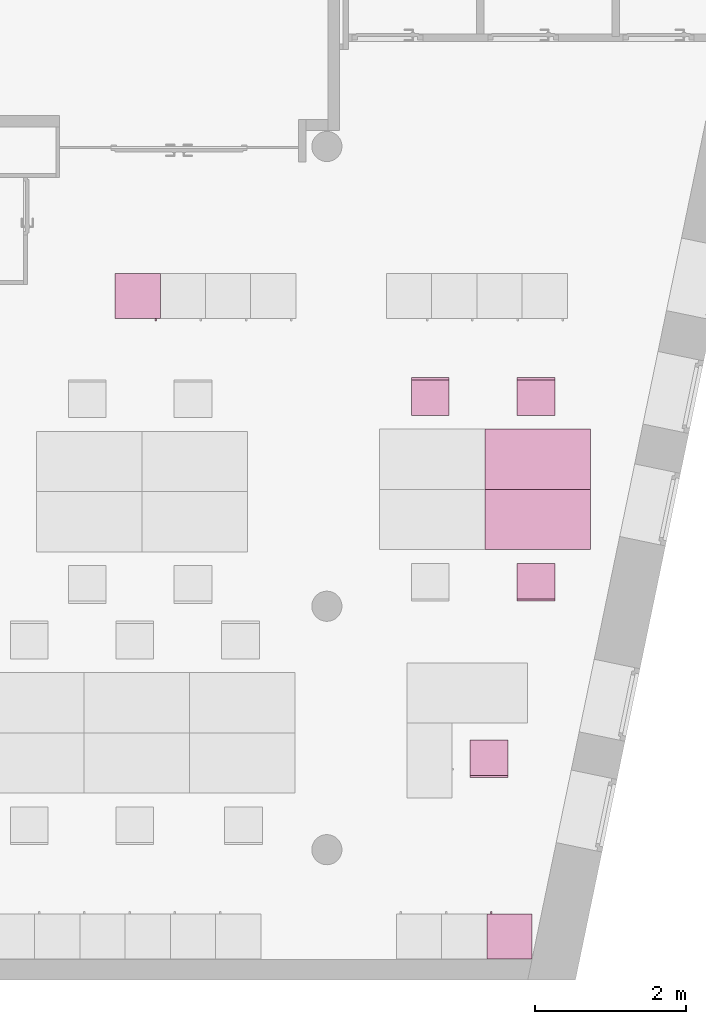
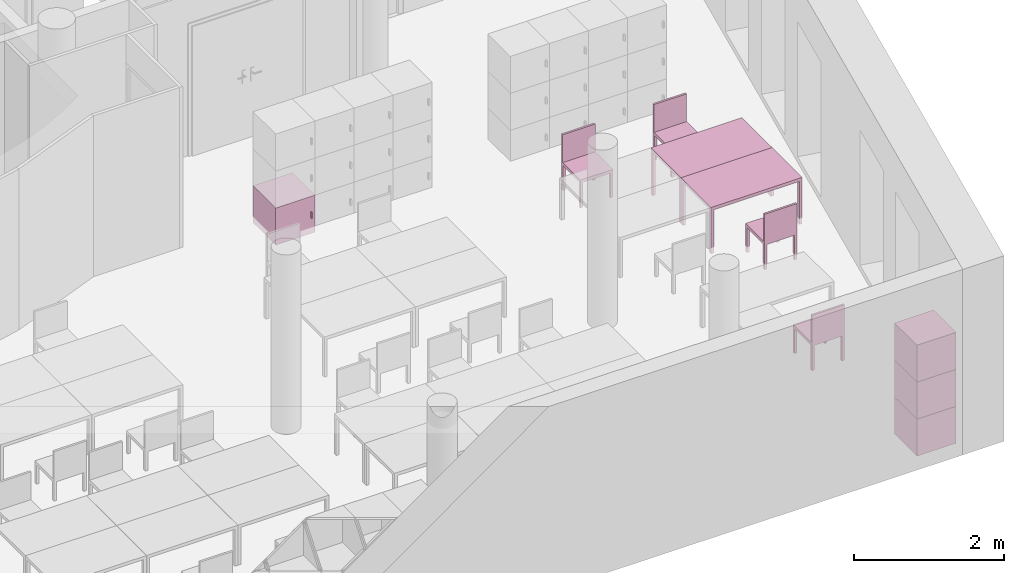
"""IFC4 building model written with IfcOpenShell, lengths in metres."""

from ifc_helpers import new_model, entity, si_unit, converted_unit, derived_unit, frame, origin, place, context, subcontext, project, spatial, faceted_brep, element, save


model = new_model("IFC4")

# Units and contexts
model_context = context("Model", 3, precision=1e-05, world=origin())
body_context = subcontext(model_context, "Body", "Model", "MODEL_VIEW")
ifc_project = project(units=[si_unit("LENGTHUNIT", "METRE"), si_unit("AREAUNIT", "SQUARE_METRE"), si_unit("VOLUMEUNIT", "CUBIC_METRE"), si_unit("MASSUNIT", "GRAM", prefix="KILO"), converted_unit("PLANEANGLEUNIT", "DEGREE", entity("IfcPlaneAngleMeasure", 0.0174532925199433), si_unit("PLANEANGLEUNIT", "RADIAN"), dimensions=[0, 0, 0, 0, 0, 0, 0]), derived_unit("THERMALTRANSMITTANCEUNIT", [(si_unit("POWERUNIT", "WATT"), 1), (si_unit("THERMODYNAMICTEMPERATUREUNIT", "KELVIN"), -1), (si_unit("LENGTHUNIT", "METRE"), -2)]), derived_unit("VOLUMETRICFLOWRATEUNIT", [(si_unit("LENGTHUNIT", "METRE"), 3), (converted_unit("TIMEUNIT", "hour", entity("IfcTimeMeasure", 3600.0), si_unit("TIMEUNIT", "SECOND"), dimensions=[0, 0, 1, 0, 0, 0, 0]), -1), (si_unit("LENGTHUNIT", "METRE"), -1)])], contexts=[model_context])

# Building, storeys
building_placement = place(None, origin())
building = spatial("IfcBuilding", under=ifc_project, at=building_placement, Name="HABITATGE PLURIFAMILIAR", CompositionType="ELEMENT")
storey_1_placement = place(building_placement, frame((0.0, 0.0, 15.28)))
storey_1 = spatial("IfcBuildingStorey", under=building, at=storey_1_placement, Name="PLANTA QUARTA", CompositionType="ELEMENT", Elevation=15.28)
storey_2_placement = place(storey_1_placement, frame((0.0, 0.0, 12.27)))
storey_2 = spatial("IfcBuildingStorey", under=storey_1, at=storey_2_placement, Name="NOU", CompositionType="PARTIAL")

# Furniture
furniture_1_placement = place(storey_2_placement, frame((423.091648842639, 18.5496367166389, -12.3699999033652)))
element("IfcFurniture", 1, at=furniture_1_placement, inside=storey_2, Name="Taula 140X80_P4", context=body_context, shape_type="Brep", body=[
    faceted_brep([(0.04375, 0.750069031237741, 0.0), (0.04375, 0.800069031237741, 0.0), (0.0, 0.800069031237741, 0.0), (0.0, 0.750069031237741, 0.0), (0.04375, 0.800069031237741, 0.7), (0.04375, 0.750069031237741, 0.7), (0.0, 0.750069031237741, 0.7), (0.0, 0.800069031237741, 0.7)], [[[0, 1, 2, 3]], [[4, 5, 6, 7]], [[1, 0, 5, 4]], [[2, 1, 4, 7]], [[3, 2, 7, 6]], [[0, 3, 6, 5]]], orient=[[False], [False], [False], [False], [False], [False]]),
    faceted_brep([(0.04375, 0.0, 0.0), (0.04375, 0.05, 0.0), (0.0, 0.05, 0.0), (0.0, 0.0, 0.0), (0.04375, 0.05, 0.7), (0.04375, 0.0, 0.7), (0.0, 0.0, 0.7), (0.0, 0.05, 0.7)], [[[0, 1, 2, 3]], [[4, 5, 6, 7]], [[1, 0, 5, 4]], [[2, 1, 4, 7]], [[3, 2, 7, 6]], [[0, 3, 6, 5]]], orient=[[False], [False], [False], [False], [False], [False]]),
    faceted_brep([(1.39732768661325, 0.0, 0.7), (1.39732768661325, 0.800069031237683, 0.7), (0.0, 0.800069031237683, 0.7), (0.0, 0.0, 0.7), (1.39732768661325, 0.800069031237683, 0.75), (1.39732768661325, 0.0, 0.75), (0.0, 0.0, 0.75), (0.0, 0.800069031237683, 0.75)], [[[0, 1, 2, 3]], [[4, 5, 6, 7]], [[1, 0, 5, 4]], [[2, 1, 4, 7]], [[3, 2, 7, 6]], [[0, 3, 6, 5]]], orient=[[False], [False], [False], [False], [False], [False]]),
    faceted_brep([(1.39732768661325, 0.750069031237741, 0.0), (1.39732768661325, 0.800069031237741, 0.0), (1.35357768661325, 0.800069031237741, 0.0), (1.35357768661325, 0.750069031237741, 0.0), (1.39732768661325, 0.800069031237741, 0.7), (1.39732768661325, 0.750069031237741, 0.7), (1.35357768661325, 0.750069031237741, 0.7), (1.35357768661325, 0.800069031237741, 0.7)], [[[0, 1, 2, 3]], [[4, 5, 6, 7]], [[1, 0, 5, 4]], [[2, 1, 4, 7]], [[3, 2, 7, 6]], [[0, 3, 6, 5]]], orient=[[False], [False], [False], [False], [False], [False]]),
    faceted_brep([(1.39732768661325, 0.0, 0.0), (1.39732768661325, 0.05, 0.0), (1.35357768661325, 0.05, 0.0), (1.35357768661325, 0.0, 0.0), (1.39732768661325, 0.05, 0.7), (1.39732768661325, 0.0, 0.7), (1.35357768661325, 0.0, 0.7), (1.35357768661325, 0.05, 0.7)], [[[0, 1, 2, 3]], [[4, 5, 6, 7]], [[1, 0, 5, 4]], [[2, 1, 4, 7]], [[3, 2, 7, 6]], [[0, 3, 6, 5]]], orient=[[False], [False], [False], [False], [False], [False]]),
])
furniture_2_placement = place(storey_2_placement, frame((423.091648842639, 19.3497057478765, -12.3699999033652)))
element("IfcFurniture", 2, at=furniture_2_placement, inside=storey_2, Name="Taula 140X80_P4", context=body_context, shape_type="Brep", body=[
    faceted_brep([(0.04375, 0.05, 0.0), (0.0, 0.05, 0.0), (0.0, 0.0, 0.0), (0.04375, 0.0, 0.0), (0.04375, 0.0, 0.7), (0.0, 0.0, 0.7), (0.0, 0.05, 0.7), (0.04375, 0.05, 0.7)], [[[0, 1, 2, 3]], [[4, 5, 6, 7]], [[3, 4, 7, 0]], [[2, 5, 4, 3]], [[1, 6, 5, 2]], [[0, 7, 6, 1]]], orient=[[False], [False], [False], [False], [False], [False]]),
    faceted_brep([(0.04375, 0.800069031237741, 0.0), (0.0, 0.800069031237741, 0.0), (0.0, 0.750069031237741, 0.0), (0.04375, 0.750069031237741, 0.0), (0.04375, 0.750069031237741, 0.7), (0.0, 0.750069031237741, 0.7), (0.0, 0.800069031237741, 0.7), (0.04375, 0.800069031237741, 0.7)], [[[0, 1, 2, 3]], [[4, 5, 6, 7]], [[3, 4, 7, 0]], [[2, 5, 4, 3]], [[1, 6, 5, 2]], [[0, 7, 6, 1]]], orient=[[False], [False], [False], [False], [False], [False]]),
    faceted_brep([(1.39732768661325, 0.800069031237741, 0.7), (0.0, 0.800069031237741, 0.7), (0.0, 0.0, 0.7), (1.39732768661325, 0.0, 0.7), (1.39732768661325, 0.0, 0.75), (0.0, 0.0, 0.75), (0.0, 0.800069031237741, 0.75), (1.39732768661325, 0.800069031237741, 0.75)], [[[0, 1, 2, 3]], [[4, 5, 6, 7]], [[3, 4, 7, 0]], [[2, 5, 4, 3]], [[1, 6, 5, 2]], [[0, 7, 6, 1]]], orient=[[False], [False], [False], [False], [False], [False]]),
    faceted_brep([(1.39732768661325, 0.05, 0.0), (1.35357768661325, 0.05, 0.0), (1.35357768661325, 0.0, 0.0), (1.39732768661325, 0.0, 0.0), (1.39732768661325, 0.0, 0.7), (1.35357768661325, 0.0, 0.7), (1.35357768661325, 0.05, 0.7), (1.39732768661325, 0.05, 0.7)], [[[0, 1, 2, 3]], [[4, 5, 6, 7]], [[3, 4, 7, 0]], [[2, 5, 4, 3]], [[1, 6, 5, 2]], [[0, 7, 6, 1]]], orient=[[False], [False], [False], [False], [False], [False]]),
    faceted_brep([(1.39732768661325, 0.800069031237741, 0.0), (1.35357768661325, 0.800069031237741, 0.0), (1.35357768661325, 0.750069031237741, 0.0), (1.39732768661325, 0.750069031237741, 0.0), (1.39732768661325, 0.750069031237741, 0.7), (1.35357768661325, 0.750069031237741, 0.7), (1.35357768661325, 0.800069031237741, 0.7), (1.39732768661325, 0.800069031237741, 0.7)], [[[0, 1, 2, 3]], [[4, 5, 6, 7]], [[3, 4, 7, 0]], [[2, 5, 4, 3]], [[1, 6, 5, 2]], [[0, 7, 6, 1]]], orient=[[False], [False], [False], [False], [False], [False]]),
])
furniture_3_placement = place(storey_2_placement, frame((423.11527037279, 13.1194598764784, -12.37)))
element("IfcFurniture", 3, at=furniture_3_placement, inside=storey_2, Name="Armai 60x60x60_P4", context=body_context, shape_type="Brep", body=[
    faceted_brep([(0.0, 0.6, 0.02), (0.0, 0.6, 0.0), (0.6, 0.6, 0.0), (0.6, 0.6, 0.02), (0.6, 0.0, 0.0), (0.6, 0.0, 0.02), (0.0, 0.0, 0.0), (0.0, 0.0, 0.02)], [[[0, 1, 2, 3]], [[3, 2, 4, 5]], [[5, 4, 6, 7]], [[7, 6, 1, 0]], [[0, 3, 5, 7]], [[1, 6, 4, 2]]], orient=[[False], [False], [False], [False], [False], [False]]),
    faceted_brep([(0.580000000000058, 0.0, 0.58), (0.580000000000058, 0.0200000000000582, 0.58), (0.580000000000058, 0.0200000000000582, 0.02), (0.580000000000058, 0.0, 0.02), (0.0200000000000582, 0.0200000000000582, 0.02), (0.0200000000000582, 0.0, 0.02), (0.0200000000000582, 0.0200000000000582, 0.58), (0.0200000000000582, 0.0, 0.58)], [[[0, 1, 2, 3]], [[3, 2, 4, 5]], [[5, 4, 6, 7]], [[7, 6, 1, 0]], [[0, 3, 5, 7]], [[1, 6, 4, 2]]], orient=[[False], [False], [False], [False], [False], [False]]),
    faceted_brep([(0.0200000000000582, 0.6, 0.58), (0.0, 0.6, 0.58), (0.0, 0.6, 0.02), (0.0200000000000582, 0.6, 0.02), (0.0, 0.0, 0.02), (0.0200000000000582, 0.0, 0.02), (0.0, 0.0, 0.58), (0.0200000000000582, 0.0, 0.58)], [[[0, 1, 2, 3]], [[3, 2, 4, 5]], [[5, 4, 6, 7]], [[7, 6, 1, 0]], [[0, 3, 5, 7]], [[1, 6, 4, 2]]], orient=[[False], [False], [False], [False], [False], [False]]),
    faceted_brep([(0.0, 0.58, 0.58), (0.0, 0.6, 0.58), (0.0, 0.6, 0.02), (0.0, 0.58, 0.02), (0.02, 0.6, 0.02), (0.02, 0.58, 0.02), (0.02, 0.6, 0.58), (0.02, 0.58, 0.58)], [[[0, 1, 2, 3]], [[3, 2, 4, 5]], [[5, 4, 6, 7]], [[7, 6, 1, 0]], [[0, 3, 5, 7]], [[1, 6, 4, 2]]], orient=[[False], [False], [False], [False], [False], [False]]),
    faceted_brep([(0.6, 0.6, 0.58), (0.58, 0.6, 0.58), (0.58, 0.6, 0.02), (0.6, 0.6, 0.02), (0.58, 0.0, 0.02), (0.6, 0.0, 0.02), (0.58, 0.0, 0.58), (0.6, 0.0, 0.58)], [[[0, 1, 2, 3]], [[3, 2, 4, 5]], [[5, 4, 6, 7]], [[7, 6, 1, 0]], [[0, 3, 5, 7]], [[1, 6, 4, 2]]], orient=[[False], [False], [False], [False], [False], [False]]),
    faceted_brep([(0.0, 0.600000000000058, 0.6), (0.0, 0.600000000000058, 0.58), (0.600000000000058, 0.600000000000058, 0.58), (0.600000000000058, 0.600000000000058, 0.6), (0.600000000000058, 0.0, 0.58), (0.600000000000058, 0.0, 0.6), (0.0, 0.0, 0.58), (0.0, 0.0, 0.6)], [[[0, 1, 2, 3]], [[3, 2, 4, 5]], [[5, 4, 6, 7]], [[7, 6, 1, 0]], [[0, 3, 5, 7]], [[1, 6, 4, 2]]], orient=[[False], [False], [False], [False], [False], [False]]),
    faceted_brep([(0.580000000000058, 0.580000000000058, 0.58), (0.580000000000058, 0.600000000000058, 0.58), (0.580000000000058, 0.600000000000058, 0.02), (0.580000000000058, 0.580000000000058, 0.02), (0.02, 0.600000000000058, 0.02), (0.02, 0.580000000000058, 0.02), (0.02, 0.600000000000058, 0.58), (0.02, 0.580000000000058, 0.58)], [[[0, 1, 2, 3]], [[3, 2, 4, 5]], [[5, 4, 6, 7]], [[7, 6, 1, 0]], [[0, 3, 5, 7]], [[1, 6, 4, 2]]], orient=[[False], [False], [False], [False], [False], [False]]),
    faceted_brep([(0.0700000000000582, 0.600000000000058, 0.358064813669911), (0.0700000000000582, 0.630000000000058, 0.358064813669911), (0.0700000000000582, 0.630000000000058, 0.258064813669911), (0.0700000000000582, 0.600000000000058, 0.258064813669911), (0.0500000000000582, 0.630000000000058, 0.258064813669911), (0.0500000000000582, 0.600000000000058, 0.258064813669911), (0.0500000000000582, 0.630000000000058, 0.358064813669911), (0.0500000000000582, 0.600000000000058, 0.358064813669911)], [[[0, 1, 2, 3]], [[3, 2, 4, 5]], [[5, 4, 6, 7]], [[7, 6, 1, 0]], [[0, 3, 5, 7]], [[1, 6, 4, 2]]], orient=[[False], [False], [False], [False], [False], [False]]),
])
furniture_4_placement = place(storey_2_placement, frame((423.11527037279, 13.1194598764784, -11.77)))
element("IfcFurniture", 4, at=furniture_4_placement, inside=storey_2, Name="Armai 60x60x60_P4", context=body_context, shape_type="Brep", body=[
    faceted_brep([(0.0, 0.6, 0.02), (0.0, 0.6, 0.0), (0.6, 0.6, 0.0), (0.6, 0.6, 0.02), (0.6, 0.0, 0.0), (0.6, 0.0, 0.02), (0.0, 0.0, 0.0), (0.0, 0.0, 0.02)], [[[0, 1, 2, 3]], [[3, 2, 4, 5]], [[5, 4, 6, 7]], [[7, 6, 1, 0]], [[0, 3, 5, 7]], [[1, 6, 4, 2]]], orient=[[False], [False], [False], [False], [False], [False]]),
    faceted_brep([(0.580000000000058, 0.0, 0.58), (0.580000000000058, 0.0200000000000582, 0.58), (0.580000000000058, 0.0200000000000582, 0.02), (0.580000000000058, 0.0, 0.02), (0.0200000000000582, 0.0200000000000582, 0.02), (0.0200000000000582, 0.0, 0.02), (0.0200000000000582, 0.0200000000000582, 0.58), (0.0200000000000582, 0.0, 0.58)], [[[0, 1, 2, 3]], [[3, 2, 4, 5]], [[5, 4, 6, 7]], [[7, 6, 1, 0]], [[0, 3, 5, 7]], [[1, 6, 4, 2]]], orient=[[False], [False], [False], [False], [False], [False]]),
    faceted_brep([(0.0200000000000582, 0.6, 0.58), (0.0, 0.6, 0.58), (0.0, 0.6, 0.02), (0.0200000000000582, 0.6, 0.02), (0.0, 0.0, 0.02), (0.0200000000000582, 0.0, 0.02), (0.0, 0.0, 0.58), (0.0200000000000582, 0.0, 0.58)], [[[0, 1, 2, 3]], [[3, 2, 4, 5]], [[5, 4, 6, 7]], [[7, 6, 1, 0]], [[0, 3, 5, 7]], [[1, 6, 4, 2]]], orient=[[False], [False], [False], [False], [False], [False]]),
    faceted_brep([(0.0, 0.58, 0.58), (0.0, 0.6, 0.58), (0.0, 0.6, 0.02), (0.0, 0.58, 0.02), (0.02, 0.6, 0.02), (0.02, 0.58, 0.02), (0.02, 0.6, 0.58), (0.02, 0.58, 0.58)], [[[0, 1, 2, 3]], [[3, 2, 4, 5]], [[5, 4, 6, 7]], [[7, 6, 1, 0]], [[0, 3, 5, 7]], [[1, 6, 4, 2]]], orient=[[False], [False], [False], [False], [False], [False]]),
    faceted_brep([(0.6, 0.6, 0.58), (0.58, 0.6, 0.58), (0.58, 0.6, 0.02), (0.6, 0.6, 0.02), (0.58, 0.0, 0.02), (0.6, 0.0, 0.02), (0.58, 0.0, 0.58), (0.6, 0.0, 0.58)], [[[0, 1, 2, 3]], [[3, 2, 4, 5]], [[5, 4, 6, 7]], [[7, 6, 1, 0]], [[0, 3, 5, 7]], [[1, 6, 4, 2]]], orient=[[False], [False], [False], [False], [False], [False]]),
    faceted_brep([(0.0, 0.600000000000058, 0.6), (0.0, 0.600000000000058, 0.58), (0.600000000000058, 0.600000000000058, 0.58), (0.600000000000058, 0.600000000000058, 0.6), (0.600000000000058, 0.0, 0.58), (0.600000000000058, 0.0, 0.6), (0.0, 0.0, 0.58), (0.0, 0.0, 0.6)], [[[0, 1, 2, 3]], [[3, 2, 4, 5]], [[5, 4, 6, 7]], [[7, 6, 1, 0]], [[0, 3, 5, 7]], [[1, 6, 4, 2]]], orient=[[False], [False], [False], [False], [False], [False]]),
    faceted_brep([(0.580000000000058, 0.580000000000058, 0.58), (0.580000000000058, 0.600000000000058, 0.58), (0.580000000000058, 0.600000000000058, 0.02), (0.580000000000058, 0.580000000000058, 0.02), (0.02, 0.600000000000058, 0.02), (0.02, 0.580000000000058, 0.02), (0.02, 0.600000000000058, 0.58), (0.02, 0.580000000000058, 0.58)], [[[0, 1, 2, 3]], [[3, 2, 4, 5]], [[5, 4, 6, 7]], [[7, 6, 1, 0]], [[0, 3, 5, 7]], [[1, 6, 4, 2]]], orient=[[False], [False], [False], [False], [False], [False]]),
    faceted_brep([(0.0700000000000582, 0.600000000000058, 0.358064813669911), (0.0700000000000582, 0.630000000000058, 0.358064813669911), (0.0700000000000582, 0.630000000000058, 0.258064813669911), (0.0700000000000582, 0.600000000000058, 0.258064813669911), (0.0500000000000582, 0.630000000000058, 0.258064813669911), (0.0500000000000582, 0.600000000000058, 0.258064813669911), (0.0500000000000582, 0.630000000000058, 0.358064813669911), (0.0500000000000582, 0.600000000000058, 0.358064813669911)], [[[0, 1, 2, 3]], [[3, 2, 4, 5]], [[5, 4, 6, 7]], [[7, 6, 1, 0]], [[0, 3, 5, 7]], [[1, 6, 4, 2]]], orient=[[False], [False], [False], [False], [False], [False]]),
])
furniture_5_placement = place(storey_2_placement, frame((423.11527037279, 13.1194598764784, -11.17)))
element("IfcFurniture", 5, at=furniture_5_placement, inside=storey_2, Name="Armai 60x60x60_P4", context=body_context, shape_type="Brep", body=[
    faceted_brep([(0.0, 0.6, 0.02), (0.0, 0.6, 0.0), (0.6, 0.6, 0.0), (0.6, 0.6, 0.02), (0.6, 0.0, 0.0), (0.6, 0.0, 0.02), (0.0, 0.0, 0.0), (0.0, 0.0, 0.02)], [[[0, 1, 2, 3]], [[3, 2, 4, 5]], [[5, 4, 6, 7]], [[7, 6, 1, 0]], [[0, 3, 5, 7]], [[1, 6, 4, 2]]], orient=[[False], [False], [False], [False], [False], [False]]),
    faceted_brep([(0.580000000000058, 0.0, 0.58), (0.580000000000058, 0.0200000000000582, 0.58), (0.580000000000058, 0.0200000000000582, 0.02), (0.580000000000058, 0.0, 0.02), (0.0200000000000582, 0.0200000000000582, 0.02), (0.0200000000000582, 0.0, 0.02), (0.0200000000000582, 0.0200000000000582, 0.58), (0.0200000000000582, 0.0, 0.58)], [[[0, 1, 2, 3]], [[3, 2, 4, 5]], [[5, 4, 6, 7]], [[7, 6, 1, 0]], [[0, 3, 5, 7]], [[1, 6, 4, 2]]], orient=[[False], [False], [False], [False], [False], [False]]),
    faceted_brep([(0.0200000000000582, 0.6, 0.58), (0.0, 0.6, 0.58), (0.0, 0.6, 0.02), (0.0200000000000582, 0.6, 0.02), (0.0, 0.0, 0.02), (0.0200000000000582, 0.0, 0.02), (0.0, 0.0, 0.58), (0.0200000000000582, 0.0, 0.58)], [[[0, 1, 2, 3]], [[3, 2, 4, 5]], [[5, 4, 6, 7]], [[7, 6, 1, 0]], [[0, 3, 5, 7]], [[1, 6, 4, 2]]], orient=[[False], [False], [False], [False], [False], [False]]),
    faceted_brep([(0.0, 0.58, 0.58), (0.0, 0.6, 0.58), (0.0, 0.6, 0.02), (0.0, 0.58, 0.02), (0.02, 0.6, 0.02), (0.02, 0.58, 0.02), (0.02, 0.6, 0.58), (0.02, 0.58, 0.58)], [[[0, 1, 2, 3]], [[3, 2, 4, 5]], [[5, 4, 6, 7]], [[7, 6, 1, 0]], [[0, 3, 5, 7]], [[1, 6, 4, 2]]], orient=[[False], [False], [False], [False], [False], [False]]),
    faceted_brep([(0.6, 0.6, 0.58), (0.58, 0.6, 0.58), (0.58, 0.6, 0.02), (0.6, 0.6, 0.02), (0.58, 0.0, 0.02), (0.6, 0.0, 0.02), (0.58, 0.0, 0.58), (0.6, 0.0, 0.58)], [[[0, 1, 2, 3]], [[3, 2, 4, 5]], [[5, 4, 6, 7]], [[7, 6, 1, 0]], [[0, 3, 5, 7]], [[1, 6, 4, 2]]], orient=[[False], [False], [False], [False], [False], [False]]),
    faceted_brep([(0.0, 0.600000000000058, 0.6), (0.0, 0.600000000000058, 0.58), (0.600000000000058, 0.600000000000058, 0.58), (0.600000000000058, 0.600000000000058, 0.6), (0.600000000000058, 0.0, 0.58), (0.600000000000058, 0.0, 0.6), (0.0, 0.0, 0.58), (0.0, 0.0, 0.6)], [[[0, 1, 2, 3]], [[3, 2, 4, 5]], [[5, 4, 6, 7]], [[7, 6, 1, 0]], [[0, 3, 5, 7]], [[1, 6, 4, 2]]], orient=[[False], [False], [False], [False], [False], [False]]),
    faceted_brep([(0.580000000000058, 0.580000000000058, 0.58), (0.580000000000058, 0.600000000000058, 0.58), (0.580000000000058, 0.600000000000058, 0.02), (0.580000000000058, 0.580000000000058, 0.02), (0.02, 0.600000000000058, 0.02), (0.02, 0.580000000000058, 0.02), (0.02, 0.600000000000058, 0.58), (0.02, 0.580000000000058, 0.58)], [[[0, 1, 2, 3]], [[3, 2, 4, 5]], [[5, 4, 6, 7]], [[7, 6, 1, 0]], [[0, 3, 5, 7]], [[1, 6, 4, 2]]], orient=[[False], [False], [False], [False], [False], [False]]),
    faceted_brep([(0.0700000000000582, 0.600000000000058, 0.358064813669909), (0.0700000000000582, 0.630000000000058, 0.358064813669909), (0.0700000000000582, 0.630000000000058, 0.258064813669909), (0.0700000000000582, 0.600000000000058, 0.258064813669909), (0.0500000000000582, 0.630000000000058, 0.258064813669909), (0.0500000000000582, 0.600000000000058, 0.258064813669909), (0.0500000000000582, 0.630000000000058, 0.358064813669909), (0.0500000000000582, 0.600000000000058, 0.358064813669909)], [[[0, 1, 2, 3]], [[3, 2, 4, 5]], [[5, 4, 6, 7]], [[7, 6, 1, 0]], [[0, 3, 5, 7]], [[1, 6, 4, 2]]], orient=[[False], [False], [False], [False], [False], [False]]),
])
furniture_6_placement = place(storey_2_placement, frame((418.182081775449, 21.5873137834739, -12.37)))
element("IfcFurniture", 6, at=furniture_6_placement, inside=storey_2, Name="Armai 60x60x60_P4", context=body_context, shape_type="Brep", body=[
    faceted_brep([(0.600000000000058, 0.0300000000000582, 0.02), (0.600000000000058, 0.0300000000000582, 0.0), (0.0, 0.0300000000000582, 0.0), (0.0, 0.0300000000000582, 0.02), (0.0, 0.630000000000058, 0.0), (0.0, 0.630000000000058, 0.02), (0.600000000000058, 0.630000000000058, 0.0), (0.600000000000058, 0.630000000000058, 0.02)], [[[0, 1, 2, 3]], [[3, 2, 4, 5]], [[5, 4, 6, 7]], [[7, 6, 1, 0]], [[0, 3, 5, 7]], [[1, 6, 4, 2]]], orient=[[False], [False], [False], [False], [False], [False]]),
    faceted_brep([(0.02, 0.63, 0.58), (0.02, 0.61, 0.58), (0.02, 0.61, 0.02), (0.02, 0.63, 0.02), (0.58, 0.61, 0.02), (0.58, 0.63, 0.02), (0.58, 0.61, 0.58), (0.58, 0.63, 0.58)], [[[0, 1, 2, 3]], [[3, 2, 4, 5]], [[5, 4, 6, 7]], [[7, 6, 1, 0]], [[0, 3, 5, 7]], [[1, 6, 4, 2]]], orient=[[False], [False], [False], [False], [False], [False]]),
    faceted_brep([(0.58, 0.0300000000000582, 0.58), (0.6, 0.0300000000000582, 0.58), (0.6, 0.0300000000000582, 0.02), (0.58, 0.0300000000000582, 0.02), (0.6, 0.630000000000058, 0.02), (0.58, 0.630000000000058, 0.02), (0.6, 0.630000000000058, 0.58), (0.58, 0.630000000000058, 0.58)], [[[0, 1, 2, 3]], [[3, 2, 4, 5]], [[5, 4, 6, 7]], [[7, 6, 1, 0]], [[0, 3, 5, 7]], [[1, 6, 4, 2]]], orient=[[False], [False], [False], [False], [False], [False]]),
    faceted_brep([(0.600000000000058, 0.0500000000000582, 0.58), (0.600000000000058, 0.0300000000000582, 0.58), (0.600000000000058, 0.0300000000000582, 0.02), (0.600000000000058, 0.0500000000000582, 0.02), (0.580000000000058, 0.0300000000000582, 0.02), (0.580000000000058, 0.0500000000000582, 0.02), (0.580000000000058, 0.0300000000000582, 0.58), (0.580000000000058, 0.0500000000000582, 0.58)], [[[0, 1, 2, 3]], [[3, 2, 4, 5]], [[5, 4, 6, 7]], [[7, 6, 1, 0]], [[0, 3, 5, 7]], [[1, 6, 4, 2]]], orient=[[False], [False], [False], [False], [False], [False]]),
    faceted_brep([(0.0, 0.0300000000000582, 0.58), (0.0200000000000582, 0.0300000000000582, 0.58), (0.0200000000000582, 0.0300000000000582, 0.02), (0.0, 0.0300000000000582, 0.02), (0.0200000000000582, 0.630000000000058, 0.02), (0.0, 0.630000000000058, 0.02), (0.0200000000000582, 0.630000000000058, 0.58), (0.0, 0.630000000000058, 0.58)], [[[0, 1, 2, 3]], [[3, 2, 4, 5]], [[5, 4, 6, 7]], [[7, 6, 1, 0]], [[0, 3, 5, 7]], [[1, 6, 4, 2]]], orient=[[False], [False], [False], [False], [False], [False]]),
    faceted_brep([(0.6, 0.03, 0.6), (0.6, 0.03, 0.58), (0.0, 0.03, 0.58), (0.0, 0.03, 0.6), (0.0, 0.63, 0.58), (0.0, 0.63, 0.6), (0.6, 0.63, 0.58), (0.6, 0.63, 0.6)], [[[0, 1, 2, 3]], [[3, 2, 4, 5]], [[5, 4, 6, 7]], [[7, 6, 1, 0]], [[0, 3, 5, 7]], [[1, 6, 4, 2]]], orient=[[False], [False], [False], [False], [False], [False]]),
    faceted_brep([(0.02, 0.05, 0.58), (0.02, 0.03, 0.58), (0.02, 0.03, 0.02), (0.02, 0.05, 0.02), (0.580000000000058, 0.03, 0.02), (0.580000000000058, 0.05, 0.02), (0.580000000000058, 0.03, 0.58), (0.580000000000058, 0.05, 0.58)], [[[0, 1, 2, 3]], [[3, 2, 4, 5]], [[5, 4, 6, 7]], [[7, 6, 1, 0]], [[0, 3, 5, 7]], [[1, 6, 4, 2]]], orient=[[False], [False], [False], [False], [False], [False]]),
    faceted_brep([(0.53, 0.03, 0.358064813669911), (0.53, 0.0, 0.358064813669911), (0.53, 0.0, 0.258064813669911), (0.53, 0.03, 0.258064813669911), (0.55, 0.0, 0.258064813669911), (0.55, 0.03, 0.258064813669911), (0.55, 0.0, 0.358064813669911), (0.55, 0.03, 0.358064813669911)], [[[0, 1, 2, 3]], [[3, 2, 4, 5]], [[5, 4, 6, 7]], [[7, 6, 1, 0]], [[0, 3, 5, 7]], [[1, 6, 4, 2]]], orient=[[False], [False], [False], [False], [False], [False]]),
])
furniture_7_placement = place(storey_2_placement, frame((422.115160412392, 20.3319877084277, -12.3640610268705)))
element("IfcFurniture", 7, at=furniture_7_placement, inside=storey_2, Name="Cadira d'Oficina_P4", context=body_context, shape_type="Brep", body=[
    faceted_brep([(0.5, 0.0, 0.399999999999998), (0.5, 0.500000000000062, 0.399999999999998), (0.0, 0.5, 0.399999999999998), (0.0, 0.0, 0.399999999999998), (0.5, 0.500000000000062, 0.449999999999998), (0.5, 0.0, 0.449999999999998), (0.0, 0.0, 0.449999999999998), (0.0, 0.5, 0.449999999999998)], [[[0, 1, 2, 3]], [[4, 5, 6, 7]], [[1, 0, 5, 4]], [[2, 1, 4, 7]], [[3, 2, 7, 6]], [[0, 3, 6, 5]]], orient=[[False], [False], [False], [False], [False], [False]]),
    faceted_brep([(0.0, 0.46, 0.0), (0.04, 0.46, 0.0), (0.04, 0.5, 0.0), (0.0, 0.5, 0.0), (0.04, 0.46, 0.4), (0.0, 0.46, 0.4), (0.0, 0.5, 0.4), (0.04, 0.5, 0.4)], [[[0, 1, 2, 3]], [[4, 5, 6, 7]], [[1, 0, 5, 4]], [[2, 1, 4, 7]], [[3, 2, 7, 6]], [[0, 3, 6, 5]]], orient=[[False], [False], [False], [False], [False], [False]]),
    faceted_brep([(0.0, 0.0, 0.0), (0.04, 0.0, 0.0), (0.04, 0.04, 0.0), (0.0, 0.04, 0.0), (0.04, 0.0, 0.4), (0.0, 0.0, 0.4), (0.0, 0.04, 0.4), (0.04, 0.04, 0.4)], [[[0, 1, 2, 3]], [[4, 5, 6, 7]], [[1, 0, 5, 4]], [[2, 1, 4, 7]], [[3, 2, 7, 6]], [[0, 3, 6, 5]]], orient=[[False], [False], [False], [False], [False], [False]]),
    faceted_brep([(0.46, 0.460000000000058, 0.0), (0.5, 0.460000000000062, 0.0), (0.5, 0.500000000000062, 0.0), (0.46, 0.500000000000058, 0.0), (0.5, 0.460000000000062, 0.4), (0.46, 0.460000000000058, 0.4), (0.46, 0.500000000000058, 0.4), (0.5, 0.500000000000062, 0.4)], [[[0, 1, 2, 3]], [[4, 5, 6, 7]], [[1, 0, 5, 4]], [[2, 1, 4, 7]], [[3, 2, 7, 6]], [[0, 3, 6, 5]]], orient=[[False], [False], [False], [False], [False], [False]]),
    faceted_brep([(0.46, 0.0, 0.0), (0.5, 0.0, 0.0), (0.5, 0.0400000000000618, 0.0), (0.46, 0.0400000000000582, 0.0), (0.5, 0.0, 0.4), (0.46, 0.0, 0.4), (0.46, 0.0400000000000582, 0.4), (0.5, 0.0400000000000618, 0.4)], [[[0, 1, 2, 3]], [[4, 5, 6, 7]], [[1, 0, 5, 4]], [[2, 1, 4, 7]], [[3, 2, 7, 6]], [[0, 3, 6, 5]]], orient=[[False], [False], [False], [False], [False], [False]]),
    faceted_brep([(0.0, 0.47, 0.45), (0.5, 0.470000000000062, 0.45), (0.5, 0.500000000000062, 0.45), (0.0, 0.5, 0.45), (0.5, 0.470000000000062, 0.9), (0.0, 0.47, 0.9), (0.0, 0.5, 0.9), (0.5, 0.500000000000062, 0.9)], [[[0, 1, 2, 3]], [[4, 5, 6, 7]], [[1, 0, 5, 4]], [[2, 1, 4, 7]], [[3, 2, 7, 6]], [[0, 3, 6, 5]]], orient=[[False], [False], [False], [False], [False], [False]]),
])
furniture_8_placement = place(storey_2_placement, frame((422.892797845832, 15.5244331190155, -12.3653305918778)))
element("IfcFurniture", 8, at=furniture_8_placement, inside=storey_2, Name="Cadira d'Oficina_P4", context=body_context, shape_type="Brep", body=[
    faceted_brep([(0.5, 0.5, 0.399999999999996), (0.0, 0.500000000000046, 0.399999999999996), (0.0, 0.0, 0.399999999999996), (0.5, 0.0, 0.399999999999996), (0.5, 0.0, 0.449999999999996), (0.0, 0.0, 0.449999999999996), (0.0, 0.500000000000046, 0.449999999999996), (0.5, 0.5, 0.449999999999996)], [[[0, 1, 2, 3]], [[4, 5, 6, 7]], [[3, 4, 7, 0]], [[2, 5, 4, 3]], [[1, 6, 5, 2]], [[0, 7, 6, 1]]], orient=[[False], [False], [False], [False], [False], [False]]),
    faceted_brep([(0.0, 0.0400000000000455, 0.0), (0.0, 0.0, 0.0), (0.04, 0.0, 0.0), (0.04, 0.0400000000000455, 0.0), (0.04, 0.0400000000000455, 0.4), (0.04, 0.0, 0.4), (0.0, 0.0, 0.4), (0.0, 0.0400000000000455, 0.4)], [[[0, 1, 2, 3]], [[4, 5, 6, 7]], [[3, 4, 7, 0]], [[2, 5, 4, 3]], [[1, 6, 5, 2]], [[0, 7, 6, 1]]], orient=[[False], [False], [False], [False], [False], [False]]),
    faceted_brep([(0.0, 0.500000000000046, 0.0), (0.0, 0.460000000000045, 0.0), (0.04, 0.460000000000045, 0.0), (0.04, 0.500000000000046, 0.0), (0.04, 0.500000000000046, 0.4), (0.04, 0.460000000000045, 0.4), (0.0, 0.460000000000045, 0.4), (0.0, 0.500000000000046, 0.4)], [[[0, 1, 2, 3]], [[4, 5, 6, 7]], [[3, 4, 7, 0]], [[2, 5, 4, 3]], [[1, 6, 5, 2]], [[0, 7, 6, 1]]], orient=[[False], [False], [False], [False], [False], [False]]),
    faceted_brep([(0.46, 0.04, 0.0), (0.46, 0.0, 0.0), (0.5, 0.0, 0.0), (0.5, 0.04, 0.0), (0.5, 0.04, 0.4), (0.5, 0.0, 0.4), (0.46, 0.0, 0.4), (0.46, 0.04, 0.4)], [[[0, 1, 2, 3]], [[4, 5, 6, 7]], [[3, 4, 7, 0]], [[2, 5, 4, 3]], [[1, 6, 5, 2]], [[0, 7, 6, 1]]], orient=[[False], [False], [False], [False], [False], [False]]),
    faceted_brep([(0.46, 0.5, 0.0), (0.46, 0.46, 0.0), (0.5, 0.46, 0.0), (0.5, 0.5, 0.0), (0.5, 0.5, 0.4), (0.5, 0.46, 0.4), (0.46, 0.46, 0.4), (0.46, 0.5, 0.4)], [[[0, 1, 2, 3]], [[4, 5, 6, 7]], [[3, 4, 7, 0]], [[2, 5, 4, 3]], [[1, 6, 5, 2]], [[0, 7, 6, 1]]], orient=[[False], [False], [False], [False], [False], [False]]),
    faceted_brep([(0.0, 0.0300000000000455, 0.45), (0.0, 0.0, 0.45), (0.5, 0.0, 0.45), (0.5, 0.03, 0.45), (0.5, 0.03, 0.9), (0.5, 0.0, 0.9), (0.0, 0.0, 0.9), (0.0, 0.0300000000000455, 0.9)], [[[0, 1, 2, 3]], [[4, 5, 6, 7]], [[3, 4, 7, 0]], [[2, 5, 4, 3]], [[1, 6, 5, 2]], [[0, 7, 6, 1]]], orient=[[False], [False], [False], [False], [False], [False]]),
])
furniture_9_placement = place(storey_2_placement, frame((423.516339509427, 17.8674237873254, -12.3653305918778)))
element("IfcFurniture", 9, at=furniture_9_placement, inside=storey_2, Name="Cadira d'Oficina_P4", context=body_context, shape_type="Brep", body=[
    faceted_brep([(0.5, 0.5, 0.399999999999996), (0.0, 0.500000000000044, 0.399999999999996), (0.0, 0.0, 0.399999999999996), (0.5, 0.0, 0.399999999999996), (0.5, 0.0, 0.449999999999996), (0.0, 0.0, 0.449999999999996), (0.0, 0.500000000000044, 0.449999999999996), (0.5, 0.5, 0.449999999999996)], [[[0, 1, 2, 3]], [[4, 5, 6, 7]], [[3, 4, 7, 0]], [[2, 5, 4, 3]], [[1, 6, 5, 2]], [[0, 7, 6, 1]]], orient=[[False], [False], [False], [False], [False], [False]]),
    faceted_brep([(0.0, 0.0400000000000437, 0.0), (0.0, 0.0, 0.0), (0.04, 0.0, 0.0), (0.04, 0.0400000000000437, 0.0), (0.04, 0.0400000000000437, 0.4), (0.04, 0.0, 0.4), (0.0, 0.0, 0.4), (0.0, 0.0400000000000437, 0.4)], [[[0, 1, 2, 3]], [[4, 5, 6, 7]], [[3, 4, 7, 0]], [[2, 5, 4, 3]], [[1, 6, 5, 2]], [[0, 7, 6, 1]]], orient=[[False], [False], [False], [False], [False], [False]]),
    faceted_brep([(0.0, 0.500000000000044, 0.0), (0.0, 0.460000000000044, 0.0), (0.04, 0.460000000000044, 0.0), (0.04, 0.500000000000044, 0.0), (0.04, 0.500000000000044, 0.4), (0.04, 0.460000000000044, 0.4), (0.0, 0.460000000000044, 0.4), (0.0, 0.500000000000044, 0.4)], [[[0, 1, 2, 3]], [[4, 5, 6, 7]], [[3, 4, 7, 0]], [[2, 5, 4, 3]], [[1, 6, 5, 2]], [[0, 7, 6, 1]]], orient=[[False], [False], [False], [False], [False], [False]]),
    faceted_brep([(0.46, 0.04, 0.0), (0.46, 0.0, 0.0), (0.5, 0.0, 0.0), (0.5, 0.04, 0.0), (0.5, 0.04, 0.4), (0.5, 0.0, 0.4), (0.46, 0.0, 0.4), (0.46, 0.04, 0.4)], [[[0, 1, 2, 3]], [[4, 5, 6, 7]], [[3, 4, 7, 0]], [[2, 5, 4, 3]], [[1, 6, 5, 2]], [[0, 7, 6, 1]]], orient=[[False], [False], [False], [False], [False], [False]]),
    faceted_brep([(0.46, 0.5, 0.0), (0.46, 0.46, 0.0), (0.5, 0.46, 0.0), (0.5, 0.5, 0.0), (0.5, 0.5, 0.4), (0.5, 0.46, 0.4), (0.46, 0.46, 0.4), (0.46, 0.5, 0.4)], [[[0, 1, 2, 3]], [[4, 5, 6, 7]], [[3, 4, 7, 0]], [[2, 5, 4, 3]], [[1, 6, 5, 2]], [[0, 7, 6, 1]]], orient=[[False], [False], [False], [False], [False], [False]]),
    faceted_brep([(0.0, 0.0300000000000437, 0.45), (0.0, 0.0, 0.45), (0.5, 0.0, 0.45), (0.5, 0.03, 0.45), (0.5, 0.03, 0.9), (0.5, 0.0, 0.9), (0.0, 0.0, 0.9), (0.0, 0.0300000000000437, 0.9)], [[[0, 1, 2, 3]], [[4, 5, 6, 7]], [[3, 4, 7, 0]], [[2, 5, 4, 3]], [[1, 6, 5, 2]], [[0, 7, 6, 1]]], orient=[[False], [False], [False], [False], [False], [False]]),
])
furniture_10_placement = place(storey_2_placement, frame((423.516339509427, 20.3319877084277, -12.3640610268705)))
element("IfcFurniture", 10, at=furniture_10_placement, inside=storey_2, Name="Cadira d'Oficina_P4", context=body_context, shape_type="Brep", body=[
    faceted_brep([(0.5, 0.0, 0.399999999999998), (0.5, 0.500000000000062, 0.399999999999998), (0.0, 0.5, 0.399999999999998), (0.0, 0.0, 0.399999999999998), (0.5, 0.500000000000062, 0.449999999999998), (0.5, 0.0, 0.449999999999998), (0.0, 0.0, 0.449999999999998), (0.0, 0.5, 0.449999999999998)], [[[0, 1, 2, 3]], [[4, 5, 6, 7]], [[1, 0, 5, 4]], [[2, 1, 4, 7]], [[3, 2, 7, 6]], [[0, 3, 6, 5]]], orient=[[False], [False], [False], [False], [False], [False]]),
    faceted_brep([(0.0, 0.46, 0.0), (0.04, 0.46, 0.0), (0.04, 0.5, 0.0), (0.0, 0.5, 0.0), (0.04, 0.46, 0.4), (0.0, 0.46, 0.4), (0.0, 0.5, 0.4), (0.04, 0.5, 0.4)], [[[0, 1, 2, 3]], [[4, 5, 6, 7]], [[1, 0, 5, 4]], [[2, 1, 4, 7]], [[3, 2, 7, 6]], [[0, 3, 6, 5]]], orient=[[False], [False], [False], [False], [False], [False]]),
    faceted_brep([(0.0, 0.0, 0.0), (0.04, 0.0, 0.0), (0.04, 0.04, 0.0), (0.0, 0.04, 0.0), (0.04, 0.0, 0.4), (0.0, 0.0, 0.4), (0.0, 0.04, 0.4), (0.04, 0.04, 0.4)], [[[0, 1, 2, 3]], [[4, 5, 6, 7]], [[1, 0, 5, 4]], [[2, 1, 4, 7]], [[3, 2, 7, 6]], [[0, 3, 6, 5]]], orient=[[False], [False], [False], [False], [False], [False]]),
    faceted_brep([(0.46, 0.460000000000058, 0.0), (0.5, 0.460000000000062, 0.0), (0.5, 0.500000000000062, 0.0), (0.46, 0.500000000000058, 0.0), (0.5, 0.460000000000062, 0.4), (0.46, 0.460000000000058, 0.4), (0.46, 0.500000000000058, 0.4), (0.5, 0.500000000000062, 0.4)], [[[0, 1, 2, 3]], [[4, 5, 6, 7]], [[1, 0, 5, 4]], [[2, 1, 4, 7]], [[3, 2, 7, 6]], [[0, 3, 6, 5]]], orient=[[False], [False], [False], [False], [False], [False]]),
    faceted_brep([(0.46, 0.0, 0.0), (0.5, 0.0, 0.0), (0.5, 0.0400000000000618, 0.0), (0.46, 0.0400000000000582, 0.0), (0.5, 0.0, 0.4), (0.46, 0.0, 0.4), (0.46, 0.0400000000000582, 0.4), (0.5, 0.0400000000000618, 0.4)], [[[0, 1, 2, 3]], [[4, 5, 6, 7]], [[1, 0, 5, 4]], [[2, 1, 4, 7]], [[3, 2, 7, 6]], [[0, 3, 6, 5]]], orient=[[False], [False], [False], [False], [False], [False]]),
    faceted_brep([(0.0, 0.47, 0.45), (0.5, 0.470000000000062, 0.45), (0.5, 0.500000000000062, 0.45), (0.0, 0.5, 0.45), (0.5, 0.470000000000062, 0.9), (0.0, 0.47, 0.9), (0.0, 0.5, 0.9), (0.5, 0.500000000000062, 0.9)], [[[0, 1, 2, 3]], [[4, 5, 6, 7]], [[1, 0, 5, 4]], [[2, 1, 4, 7]], [[3, 2, 7, 6]], [[0, 3, 6, 5]]], orient=[[False], [False], [False], [False], [False], [False]]),
])

save(model, "model.ifc")
